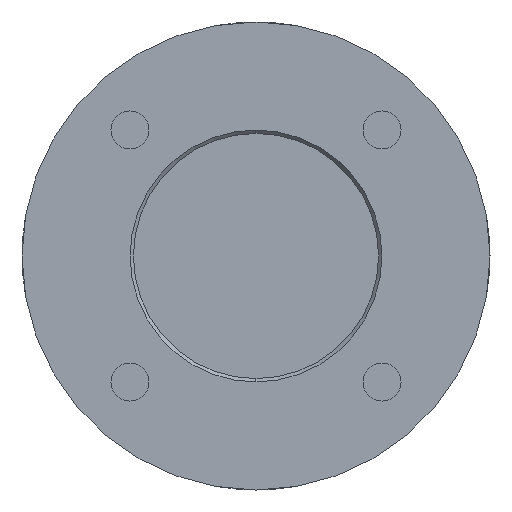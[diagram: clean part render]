
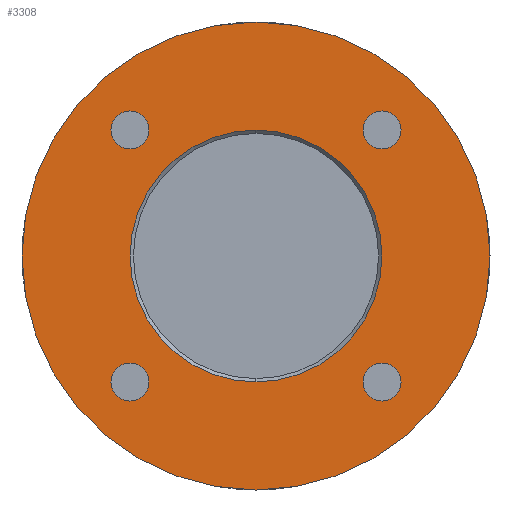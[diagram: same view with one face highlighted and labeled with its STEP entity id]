
A CAD part, left-side view. The second image highlights one B-rep face of the part: STEP entity #3308.
In plain terms, the highlighted planar face has unit normal (-1, 0, 0).
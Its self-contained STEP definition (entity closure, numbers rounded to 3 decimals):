
#199=CARTESIAN_POINT('',(0.,0.,0.));
#200=DIRECTION('',(1.,0.,0.));
#201=DIRECTION('',(0.,0.,-1.));
#202=AXIS2_PLACEMENT_3D('',#199,#200,#201);
#204=CARTESIAN_POINT('',(0.,0.,0.));
#205=DIRECTION('',(1.,0.,0.));
#206=DIRECTION('',(0.,0.,1.));
#207=AXIS2_PLACEMENT_3D('',#204,#205,#206);
#209=CARTESIAN_POINT('',(0.,11.314,11.314));
#210=DIRECTION('',(1.,0.,0.));
#211=DIRECTION('',(0.,1.,0.));
#212=AXIS2_PLACEMENT_3D('',#209,#210,#211);
#214=CARTESIAN_POINT('',(0.,11.314,11.314));
#215=DIRECTION('',(1.,0.,0.));
#216=DIRECTION('',(0.,-1.,0.));
#217=AXIS2_PLACEMENT_3D('',#214,#215,#216);
#219=CARTESIAN_POINT('',(0.,-11.314,11.314));
#220=DIRECTION('',(1.,0.,0.));
#221=DIRECTION('',(0.,1.,0.));
#222=AXIS2_PLACEMENT_3D('',#219,#220,#221);
#224=CARTESIAN_POINT('',(0.,-11.314,11.314));
#225=DIRECTION('',(1.,0.,0.));
#226=DIRECTION('',(0.,-1.,0.));
#227=AXIS2_PLACEMENT_3D('',#224,#225,#226);
#229=CARTESIAN_POINT('',(0.,-11.314,-11.314));
#230=DIRECTION('',(1.,0.,0.));
#231=DIRECTION('',(0.,1.,0.));
#232=AXIS2_PLACEMENT_3D('',#229,#230,#231);
#234=CARTESIAN_POINT('',(0.,-11.314,-11.314));
#235=DIRECTION('',(1.,0.,0.));
#236=DIRECTION('',(0.,-1.,0.));
#237=AXIS2_PLACEMENT_3D('',#234,#235,#236);
#239=CARTESIAN_POINT('',(0.,11.314,-11.314));
#240=DIRECTION('',(1.,0.,0.));
#241=DIRECTION('',(0.,1.,0.));
#242=AXIS2_PLACEMENT_3D('',#239,#240,#241);
#244=CARTESIAN_POINT('',(0.,11.314,-11.314));
#245=DIRECTION('',(1.,0.,0.));
#246=DIRECTION('',(0.,-1.,0.));
#247=AXIS2_PLACEMENT_3D('',#244,#245,#246);
#2493=CARTESIAN_POINT('',(0.,0.,0.));
#2494=DIRECTION('',(-1.,0.,0.));
#2495=DIRECTION('',(0.,0.,1.));
#2496=AXIS2_PLACEMENT_3D('',#2493,#2494,#2495);
#2511=CARTESIAN_POINT('',(0.,0.,0.));
#2512=DIRECTION('',(-1.,0.,0.));
#2513=DIRECTION('',(0.,0.,-1.));
#2514=AXIS2_PLACEMENT_3D('',#2511,#2512,#2513);
#2611=CARTESIAN_POINT('',(0.,0.,-21.));
#2612=CARTESIAN_POINT('',(0.,0.,21.));
#2613=VERTEX_POINT('',#2611);
#2614=VERTEX_POINT('',#2612);
#2627=CARTESIAN_POINT('',(0.,13.014,11.314));
#2628=CARTESIAN_POINT('',(0.,9.614,11.314));
#2629=VERTEX_POINT('',#2627);
#2630=VERTEX_POINT('',#2628);
#2635=CARTESIAN_POINT('',(0.,-9.614,11.314));
#2636=CARTESIAN_POINT('',(0.,-13.014,11.314));
#2637=VERTEX_POINT('',#2635);
#2638=VERTEX_POINT('',#2636);
#2643=CARTESIAN_POINT('',(0.,-9.614,-11.314));
#2644=CARTESIAN_POINT('',(0.,-13.014,-11.314));
#2645=VERTEX_POINT('',#2643);
#2646=VERTEX_POINT('',#2644);
#2651=CARTESIAN_POINT('',(0.,13.014,-11.314));
#2652=CARTESIAN_POINT('',(0.,9.614,-11.314));
#2653=VERTEX_POINT('',#2651);
#2654=VERTEX_POINT('',#2652);
#3163=CARTESIAN_POINT('',(0.,0.,-11.3));
#3164=CARTESIAN_POINT('',(0.,0.,11.3));
#3165=VERTEX_POINT('',#3163);
#3166=VERTEX_POINT('',#3164);
#3267=CARTESIAN_POINT('',(0.,0.,0.));
#3268=DIRECTION('',(1.,0.,0.));
#3269=DIRECTION('',(0.,0.,-1.));
#3270=AXIS2_PLACEMENT_3D('',#3267,#3268,#3269);
#3271=PLANE('',#3270);
#3273=ORIENTED_EDGE('',*,*,#3272,.T.);
#3275=ORIENTED_EDGE('',*,*,#3274,.T.);
#3276=EDGE_LOOP('',(#3273,#3275));
#3277=FACE_OUTER_BOUND('',#3276,.F.);
#3279=ORIENTED_EDGE('',*,*,#3278,.T.);
#3281=ORIENTED_EDGE('',*,*,#3280,.T.);
#3282=EDGE_LOOP('',(#3279,#3281));
#3283=FACE_BOUND('',#3282,.F.);
#3285=ORIENTED_EDGE('',*,*,#3284,.F.);
#3287=ORIENTED_EDGE('',*,*,#3286,.F.);
#3288=EDGE_LOOP('',(#3285,#3287));
#3289=FACE_BOUND('',#3288,.F.);
#3291=ORIENTED_EDGE('',*,*,#3290,.F.);
#3293=ORIENTED_EDGE('',*,*,#3292,.F.);
#3294=EDGE_LOOP('',(#3291,#3293));
#3295=FACE_BOUND('',#3294,.F.);
#3297=ORIENTED_EDGE('',*,*,#3296,.F.);
#3299=ORIENTED_EDGE('',*,*,#3298,.F.);
#3300=EDGE_LOOP('',(#3297,#3299));
#3301=FACE_BOUND('',#3300,.F.);
#3303=ORIENTED_EDGE('',*,*,#3302,.F.);
#3305=ORIENTED_EDGE('',*,*,#3304,.F.);
#3306=EDGE_LOOP('',(#3303,#3305));
#3307=FACE_BOUND('',#3306,.F.);
#3308=ADVANCED_FACE('',(#3277,#3283,#3289,#3295,#3301,#3307),#3271,.F.);
#203=CIRCLE('',#202,21.);
#208=CIRCLE('',#207,21.);
#213=CIRCLE('',#212,1.7);
#218=CIRCLE('',#217,1.7);
#223=CIRCLE('',#222,1.7);
#228=CIRCLE('',#227,1.7);
#233=CIRCLE('',#232,1.7);
#238=CIRCLE('',#237,1.7);
#243=CIRCLE('',#242,1.7);
#248=CIRCLE('',#247,1.7);
#2497=CIRCLE('',#2496,11.3);
#2515=CIRCLE('',#2514,11.3);
#3272=EDGE_CURVE('',#2613,#2614,#203,.T.);
#3274=EDGE_CURVE('',#2614,#2613,#208,.T.);
#3278=EDGE_CURVE('',#3166,#3165,#2497,.T.);
#3280=EDGE_CURVE('',#3165,#3166,#2515,.T.);
#3284=EDGE_CURVE('',#2629,#2630,#213,.T.);
#3286=EDGE_CURVE('',#2630,#2629,#218,.T.);
#3290=EDGE_CURVE('',#2637,#2638,#223,.T.);
#3292=EDGE_CURVE('',#2638,#2637,#228,.T.);
#3296=EDGE_CURVE('',#2645,#2646,#233,.T.);
#3298=EDGE_CURVE('',#2646,#2645,#238,.T.);
#3302=EDGE_CURVE('',#2653,#2654,#243,.T.);
#3304=EDGE_CURVE('',#2654,#2653,#248,.T.);
